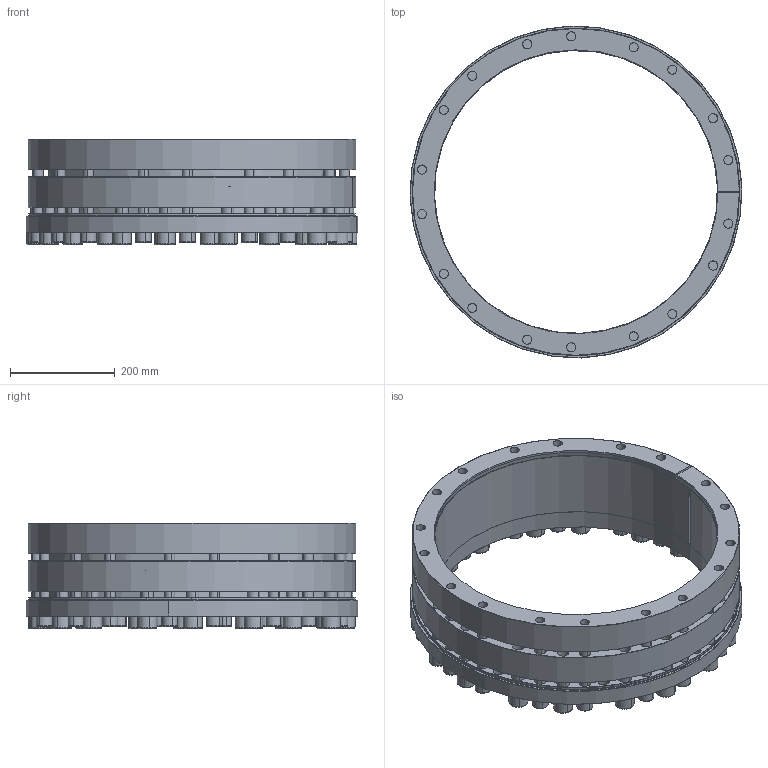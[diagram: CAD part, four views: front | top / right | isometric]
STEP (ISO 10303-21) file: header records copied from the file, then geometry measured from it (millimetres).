
FILE_DESCRIPTION (( 'STEP AP214' ), '1' );
FILE_NAME ('CONEX-P-540x625-P-021.step', '2015-11-30T21:15:25', ( '' ), ( '' ), 'SwSTEP 2.0', 'SolidWorks 2013', '' );
FILE_SCHEMA (( 'AUTOMOTIVE_DESIGN' ));
Length unit declared in the file: millimetre
Products named in the file (1): CONEX-P-540x625-P-021
Bounding box: 633.7 x 633.7 x 202 mm (x, y, z)
Volume: 12964712.5 mm3; surface area: 2144951.5 mm2
Topology: 39 solids, 39 shells, 1234 faces, 2838 edges, 1684 vertices
Faces by surface type: plane 562, cylinder 354, cone 170, torus 148
Entity records: 48648 total; most frequent: DIRECTION 6540, CARTESIAN_POINT 5801, ORIENTED_EDGE 5532, EDGE_CURVE 2766, AXIS2_PLACEMENT_3D 2567, VERTEX_POINT 1684, EDGE_LOOP 1506, VECTOR 1406
